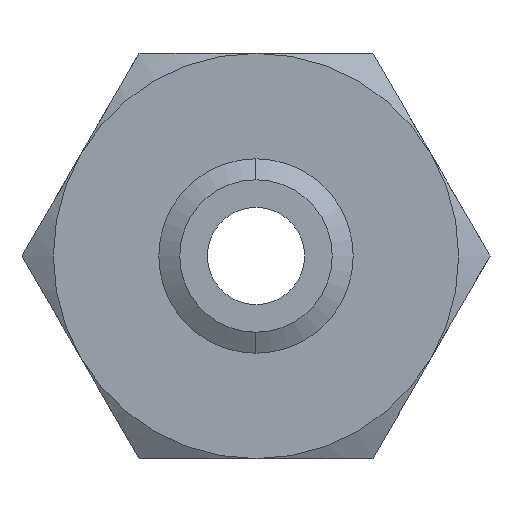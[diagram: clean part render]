
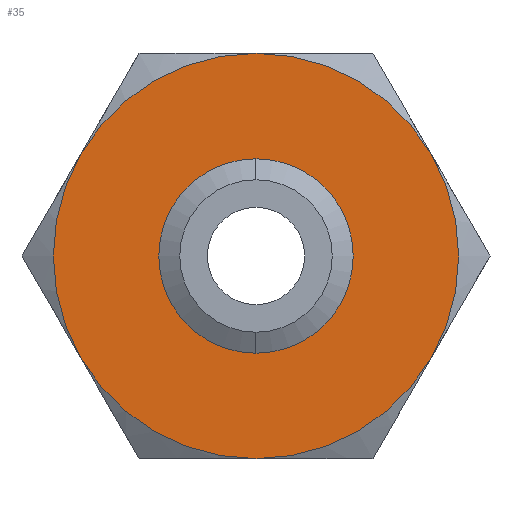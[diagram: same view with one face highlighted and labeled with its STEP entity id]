
A CAD part, front view. The second image highlights one B-rep face of the part: STEP entity #35.
In plain terms, the highlighted planar face has unit normal (0, -1, 0).
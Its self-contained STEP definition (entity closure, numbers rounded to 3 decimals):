
#2 = EDGE_LOOP ( 'NONE', ( #23, #43 ) ) ;
#19 = VERTEX_POINT ( 'NONE', #609 ) ;
#20 = ORIENTED_EDGE ( 'NONE', *, *, #44, .F. ) ;
#21 = VERTEX_POINT ( 'NONE', #605 ) ;
#22 = VERTEX_POINT ( 'NONE', #604 ) ;
#23 = ORIENTED_EDGE ( 'NONE', *, *, #209, .F. ) ;
#35 = ADVANCED_FACE ( 'NONE', ( #587, #586 ), #592, .F. ) ;
#36 = EDGE_CURVE ( 'NONE', #201, #200, #643, .T. ) ;
#37 = EDGE_LOOP ( 'NONE', ( #38, #53, #54, #49, #20, #47 ) ) ;
#38 = ORIENTED_EDGE ( 'NONE', *, *, #39, .F. ) ;
#39 = EDGE_CURVE ( 'NONE', #22, #21, #637, .T. ) ;
#43 = ORIENTED_EDGE ( 'NONE', *, *, #36, .F. ) ;
#44 = EDGE_CURVE ( 'NONE', #46, #19, #621, .T. ) ;
#45 = EDGE_CURVE ( 'NONE', #21, #46, #677, .T. ) ;
#46 = VERTEX_POINT ( 'NONE', #672 ) ;
#47 = ORIENTED_EDGE ( 'NONE', *, *, #45, .F. ) ;
#48 = VERTEX_POINT ( 'NONE', #671 ) ;
#49 = ORIENTED_EDGE ( 'NONE', *, *, #50, .F. ) ;
#50 = EDGE_CURVE ( 'NONE', #19, #48, #670, .T. ) ;
#51 = VERTEX_POINT ( 'NONE', #665 ) ;
#52 = EDGE_CURVE ( 'NONE', #48, #51, #664, .T. ) ;
#53 = ORIENTED_EDGE ( 'NONE', *, *, #55, .F. ) ;
#54 = ORIENTED_EDGE ( 'NONE', *, *, #52, .F. ) ;
#55 = EDGE_CURVE ( 'NONE', #51, #22, #659, .T. ) ;
#200 = VERTEX_POINT ( 'NONE', #911 ) ;
#201 = VERTEX_POINT ( 'NONE', #910 ) ;
#209 = EDGE_CURVE ( 'NONE', #200, #201, #903, .T. ) ;
#583 = DIRECTION ( 'NONE',  ( 0., 1., 0. ) ) ;
#584 = CARTESIAN_POINT ( 'NONE',  ( 14.434, 0., -25. ) ) ;
#585 = AXIS2_PLACEMENT_3D ( 'NONE', #584, #583, #642 ) ;
#586 = FACE_BOUND ( 'NONE', #2, .T. ) ;
#587 = FACE_OUTER_BOUND ( 'NONE', #37, .T. ) ;
#592 = PLANE ( 'NONE',  #585 ) ;
#604 = CARTESIAN_POINT ( 'NONE',  ( 0., 0., 25. ) ) ;
#605 = CARTESIAN_POINT ( 'NONE',  ( 21.651, 0., 12.5 ) ) ;
#609 = CARTESIAN_POINT ( 'NONE',  ( 0., 0., -25. ) ) ;
#617 = DIRECTION ( 'NONE',  ( 0., 0., 1. ) ) ;
#618 = DIRECTION ( 'NONE',  ( 0., 1., 0. ) ) ;
#619 = CARTESIAN_POINT ( 'NONE',  ( 0., 0., 0. ) ) ;
#620 = AXIS2_PLACEMENT_3D ( 'NONE', #619, #618, #617 ) ;
#621 = CIRCLE ( 'NONE', #620, 25. ) ;
#633 = DIRECTION ( 'NONE',  ( 0., 0., 1. ) ) ;
#634 = DIRECTION ( 'NONE',  ( 0., 1., 0. ) ) ;
#635 = CARTESIAN_POINT ( 'NONE',  ( 0., 0., 0. ) ) ;
#636 = AXIS2_PLACEMENT_3D ( 'NONE', #635, #634, #633 ) ;
#637 = CIRCLE ( 'NONE', #636, 25. ) ;
#638 = DIRECTION ( 'NONE',  ( 0., 0., -1. ) ) ;
#639 = DIRECTION ( 'NONE',  ( 0., -1., 0. ) ) ;
#640 = CARTESIAN_POINT ( 'NONE',  ( 0., 0., 0. ) ) ;
#641 = AXIS2_PLACEMENT_3D ( 'NONE', #640, #639, #638 ) ;
#642 = DIRECTION ( 'NONE',  ( 0., 0., 1. ) ) ;
#643 = CIRCLE ( 'NONE', #641, 9.402 ) ;
#655 = DIRECTION ( 'NONE',  ( 0., 0., 1. ) ) ;
#656 = DIRECTION ( 'NONE',  ( 0., 1., 0. ) ) ;
#657 = CARTESIAN_POINT ( 'NONE',  ( 0., 0., 0. ) ) ;
#658 = AXIS2_PLACEMENT_3D ( 'NONE', #657, #656, #655 ) ;
#659 = CIRCLE ( 'NONE', #658, 25. ) ;
#660 = DIRECTION ( 'NONE',  ( 0., 0., 1. ) ) ;
#661 = DIRECTION ( 'NONE',  ( 0., 1., 0. ) ) ;
#662 = CARTESIAN_POINT ( 'NONE',  ( 0., 0., 0. ) ) ;
#663 = AXIS2_PLACEMENT_3D ( 'NONE', #662, #661, #660 ) ;
#664 = CIRCLE ( 'NONE', #663, 25. ) ;
#665 = CARTESIAN_POINT ( 'NONE',  ( -21.651, 0., 12.5 ) ) ;
#666 = DIRECTION ( 'NONE',  ( 0., 0., 1. ) ) ;
#667 = DIRECTION ( 'NONE',  ( 0., 1., 0. ) ) ;
#668 = CARTESIAN_POINT ( 'NONE',  ( 0., 0., 0. ) ) ;
#669 = AXIS2_PLACEMENT_3D ( 'NONE', #668, #667, #666 ) ;
#670 = CIRCLE ( 'NONE', #669, 25. ) ;
#671 = CARTESIAN_POINT ( 'NONE',  ( -21.651, 0., -12.5 ) ) ;
#672 = CARTESIAN_POINT ( 'NONE',  ( 21.651, 0., -12.5 ) ) ;
#673 = DIRECTION ( 'NONE',  ( 0., 0., 1. ) ) ;
#674 = DIRECTION ( 'NONE',  ( 0., 1., 0. ) ) ;
#675 = CARTESIAN_POINT ( 'NONE',  ( 0., 0., 0. ) ) ;
#676 = AXIS2_PLACEMENT_3D ( 'NONE', #675, #674, #673 ) ;
#677 = CIRCLE ( 'NONE', #676, 25. ) ;
#899 = DIRECTION ( 'NONE',  ( 0., 0., -1. ) ) ;
#900 = DIRECTION ( 'NONE',  ( 0., -1., 0. ) ) ;
#901 = CARTESIAN_POINT ( 'NONE',  ( 0., 0., 0. ) ) ;
#902 = AXIS2_PLACEMENT_3D ( 'NONE', #901, #900, #899 ) ;
#903 = CIRCLE ( 'NONE', #902, 9.402 ) ;
#910 = CARTESIAN_POINT ( 'NONE',  ( 0., 0., 9.402 ) ) ;
#911 = CARTESIAN_POINT ( 'NONE',  ( 0., 0., -9.402 ) ) ;
